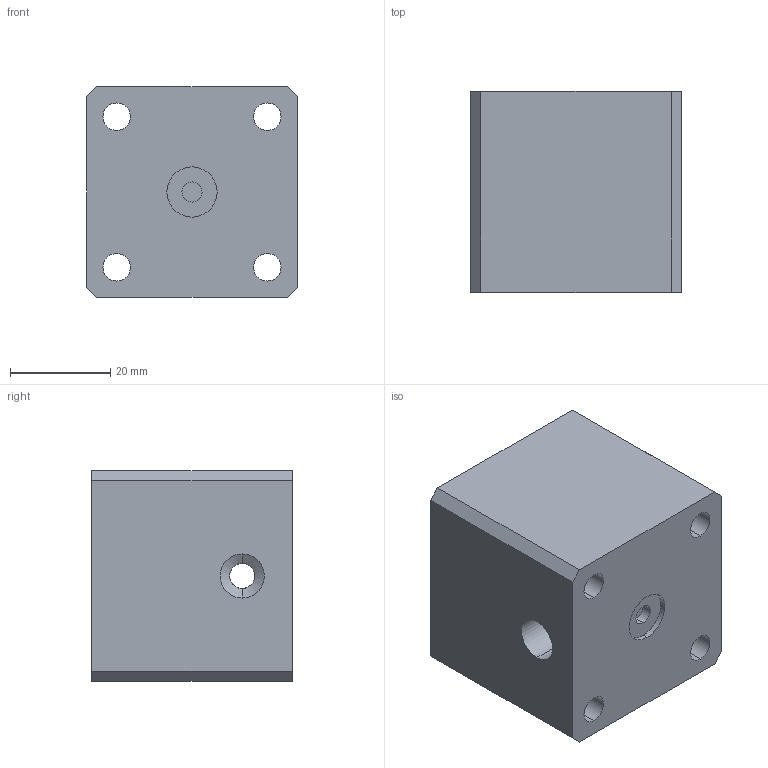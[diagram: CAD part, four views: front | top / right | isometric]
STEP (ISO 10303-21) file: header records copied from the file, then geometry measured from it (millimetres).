
FILE_DESCRIPTION (( 'STEP AP214' ), '1' );
FILE_NAME ('SP-16BASE.STEP', '2021-10-19T00:33:40', ( '' ), ( '' ), 'SwSTEP 2.0', 'SolidWorks 2016', '' );
FILE_SCHEMA (( 'AUTOMOTIVE_DESIGN' ));
Length unit declared in the file: millimetre
Products named in the file (1): SP-16BASE
Bounding box: 42 x 40 x 42 mm (x, y, z)
Volume: 47835 mm3; surface area: 16037.7 mm2
Topology: 1 solids, 1 shells, 60 faces, 136 edges, 86 vertices
Faces by surface type: cylinder 34, plane 18, cone 8
Entity records: 1930 total; most frequent: CARTESIAN_POINT 403, DIRECTION 320, ORIENTED_EDGE 272, EDGE_CURVE 136, AXIS2_PLACEMENT_3D 127, VERTEX_POINT 86, EDGE_LOOP 80, CIRCLE 66
